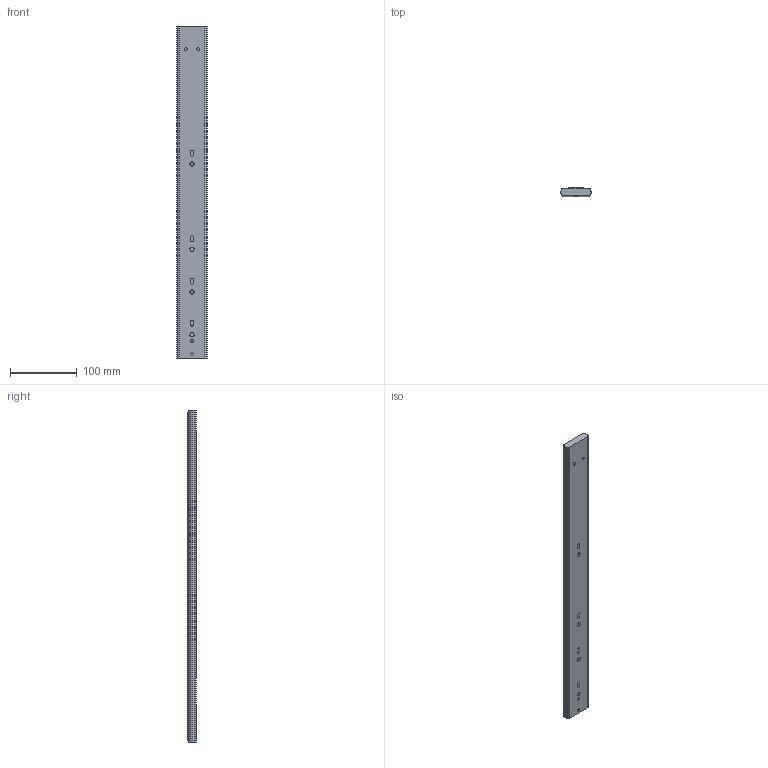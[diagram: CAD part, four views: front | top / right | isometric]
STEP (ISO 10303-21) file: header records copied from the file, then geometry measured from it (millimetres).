
FILE_DESCRIPTION (( 'STEP AP203' ), '1' );
FILE_NAME ('4587120H(¹Ø£©.STEP', '2020-02-13T09:06:23', ( 'ZZG' ), ( 'Microsoft' ), 'SwSTEP 2.0', 'SolidWorks 2012', '' );
FILE_SCHEMA (( 'CONFIG_CONTROL_DESIGN' ));
Length unit declared in the file: millimetre
Products named in the file (1): 4587120H(壽ㄘ
Bounding box: 45.55 x 12.7 x 498 mm (x, y, z)
Volume: 261346.3 mm3; surface area: 54875 mm2
Topology: 1 solids, 1 shells, 185 faces, 487 edges, 324 vertices
Faces by surface type: cylinder 99, plane 76, cone 6, bspline 4
Entity records: 6014 total; most frequent: CARTESIAN_POINT 1229, DIRECTION 1013, ORIENTED_EDGE 974, EDGE_CURVE 487, AXIS2_PLACEMENT_3D 374, VERTEX_POINT 324, LINE 265, VECTOR 265
